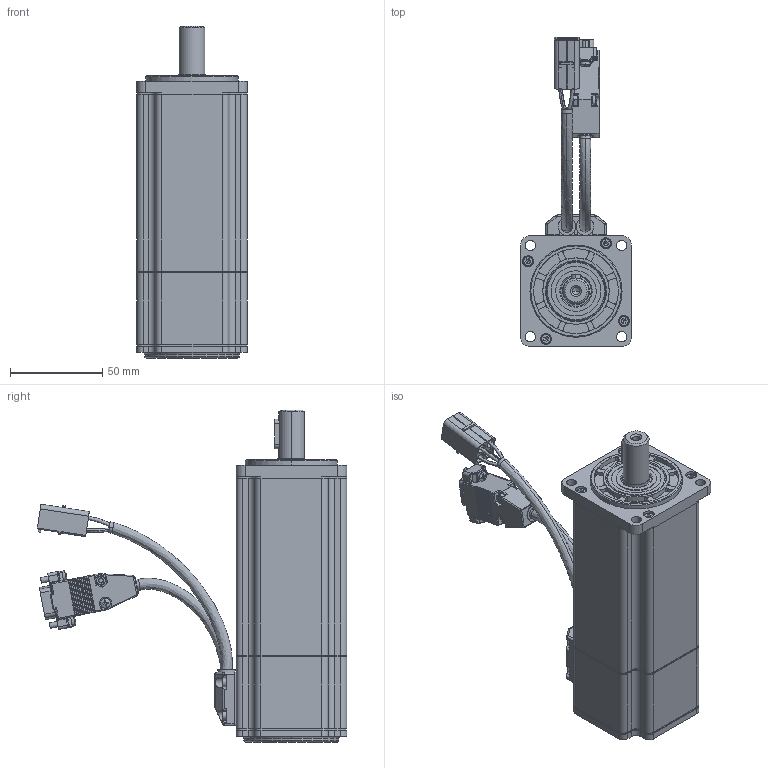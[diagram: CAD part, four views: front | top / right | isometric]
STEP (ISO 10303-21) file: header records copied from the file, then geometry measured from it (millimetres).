
FILE_DESCRIPTION (( 'STEP AP203' ), '1' );
FILE_NAME ('L60-4030X6XNL（SMH60-4030X6XNL-XX）.STEP', '2016-06-04T05:13:54', ( '微软用户' ), ( '微软中国' ), 'SwSTEP 2.0', 'SolidWorks 2011', '' );
FILE_SCHEMA (( 'CONFIG_CONTROL_DESIGN' ));
Length unit declared in the file: millimetre
Products named in the file (20): L60-4030X6XNL（SMH60-4030X6XNL-XX）; 嘎殤蚐猾; hexagon socket head cap screws gb_GB_FASTENER_SCREWS_HSHCS M2.5X10-N; cross recessed countersunk head screws gb1_GB_CROSS_SCREWS_TYPE4 M2.5X10-8.5  H type-N; circlips for holes--type a gb_GB_CONNECTING_PIECE_RING_RRH 32; 瑩; 竘盄碟; 竘盄菜; 鎢攫欶綴裔; 鎢攫欶; 躇猾菜; 蛌赽軞傖; Deep groove ball bearings GB_Rolling bearings 6002 GB 276-94; 蛌赽郪璃_Default; 蛌粣; 隅赽軞傖; hexagon socket head cap screws gb_GB_FASTENER_SCREWS_HSHCS M3X12-N; 儂褲; ヶ傷裔И璃; ヶ傷裔
Assembly tree (29 placements, depth 4):
  L60-4030X6XNL（SMH60-4030X6XNL-XX）
    隅赽軞傖
      ヶ傷裔
      hexagon socket head cap screws gb_GB_FASTENER_SCREWS_HSHCS M3X12-N  x4
      儂褲
      ヶ傷裔И璃
    嘎殤蚐猾
    hexagon socket head cap screws gb_GB_FASTENER_SCREWS_HSHCS M2.5X10-N  x4
    cross recessed countersunk head screws gb1_GB_CROSS_SCREWS_TYPE4 M2.5X10-8.5  H type-N  x4
    鎢攫欶
    蛌赽軞傖
      蛌赽郪璃_Default
        蛌粣
      Deep groove ball bearings GB_Rolling bearings 6002 GB 276-94
    circlips for holes--type a gb_GB_CONNECTING_PIECE_RING_RRH 32
    瑩
    竘盄碟
    竘盄菜
    鎢攫欶綴裔
    躇猾菜  x2
Bounding box: 60 x 167.86 x 180.1 mm (x, y, z)
Volume: 185960.6 mm3; surface area: 126642.5 mm2
Topology: 41 solids, 41 shells, 2283 faces, 6051 edges, 3731 vertices
Faces by surface type: cylinder 964, plane 830, cone 145, sphere 126, bspline 122, torus 96
Entity records: 69240 total; most frequent: CARTESIAN_POINT 18302, DIRECTION 10263, ORIENTED_EDGE 10214, EDGE_CURVE 5107, AXIS2_PLACEMENT_3D 3892, VERTEX_POINT 3227, VECTOR 2479, LINE 2479
